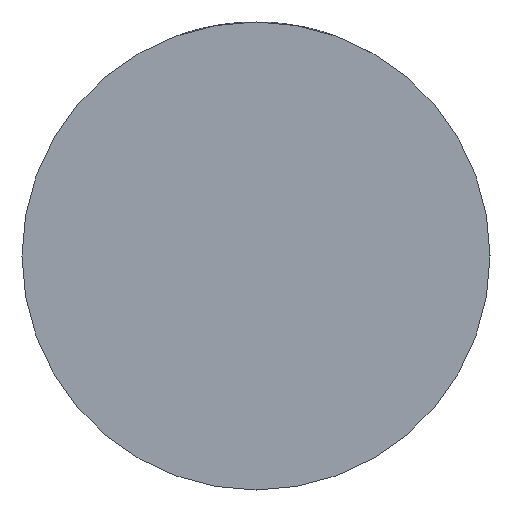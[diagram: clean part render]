
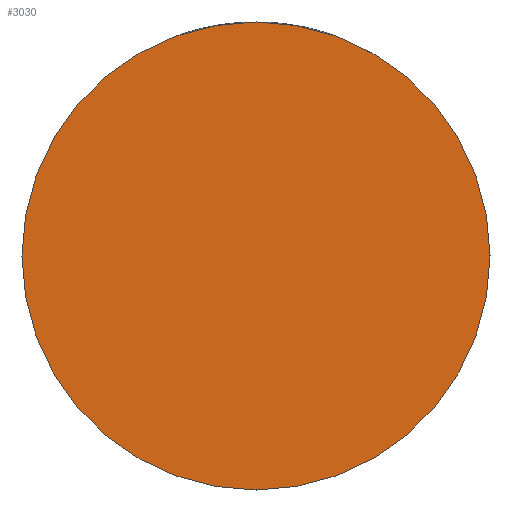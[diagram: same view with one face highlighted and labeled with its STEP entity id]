
A CAD part, front view. The second image highlights one B-rep face of the part: STEP entity #3030.
In plain terms, the highlighted planar face has unit normal (0, -1, 0).
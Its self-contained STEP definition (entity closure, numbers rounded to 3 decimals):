
#590 = DIRECTION ( 'NONE',  ( 0., 1., 0. ) ) ;
#1187 = CARTESIAN_POINT ( 'NONE',  ( 0., -21., 0. ) ) ;
#1582 = AXIS2_PLACEMENT_3D ( 'NONE', #5125, #590, #3507 ) ;
#1593 = CARTESIAN_POINT ( 'NONE',  ( 0., -21., 0. ) ) ;
#1619 = DIRECTION ( 'NONE',  ( 0., -1., 0. ) ) ;
#1683 = VERTEX_POINT ( 'NONE', #1883 ) ;
#1705 = FACE_OUTER_BOUND ( 'NONE', #4035, .T. ) ;
#1757 = ORIENTED_EDGE ( 'NONE', *, *, #5272, .F. ) ;
#1883 = CARTESIAN_POINT ( 'NONE',  ( 34., -21., 0. ) ) ;
#2386 = AXIS2_PLACEMENT_3D ( 'NONE', #1187, #4492, #4958 ) ;
#2482 = CARTESIAN_POINT ( 'NONE',  ( -34., -21., 0. ) ) ;
#2516 = EDGE_CURVE ( 'NONE', #1683, #4658, #3920, .T. ) ;
#2536 = AXIS2_PLACEMENT_3D ( 'NONE', #1593, #1619, #4602 ) ;
#3030 = ADVANCED_FACE ( 'NONE', ( #1705 ), #5024, .T. ) ;
#3328 = CIRCLE ( 'NONE', #2386, 34. ) ;
#3507 = DIRECTION ( 'NONE',  ( -1., 0., 0. ) ) ;
#3920 = CIRCLE ( 'NONE', #1582, 34. ) ;
#4035 = EDGE_LOOP ( 'NONE', ( #1757, #5346 ) ) ;
#4492 = DIRECTION ( 'NONE',  ( 0., 1., 0. ) ) ;
#4602 = DIRECTION ( 'NONE',  ( 1., 0., 0. ) ) ;
#4658 = VERTEX_POINT ( 'NONE', #2482 ) ;
#4958 = DIRECTION ( 'NONE',  ( -1., 0., 0. ) ) ;
#5024 = PLANE ( 'NONE',  #2536 ) ;
#5125 = CARTESIAN_POINT ( 'NONE',  ( 0., -21., 0. ) ) ;
#5272 = EDGE_CURVE ( 'NONE', #4658, #1683, #3328, .T. ) ;
#5346 = ORIENTED_EDGE ( 'NONE', *, *, #2516, .F. ) ;
